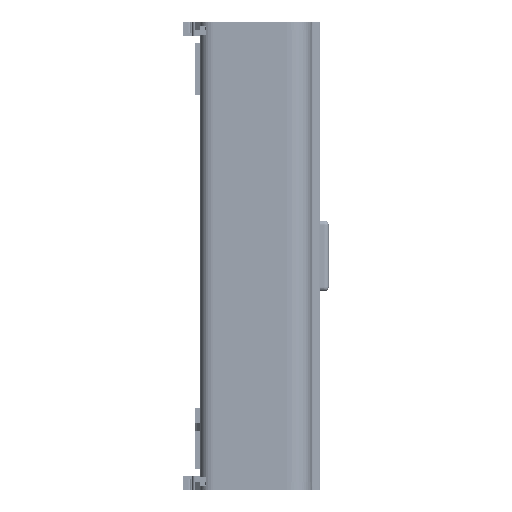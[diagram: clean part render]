
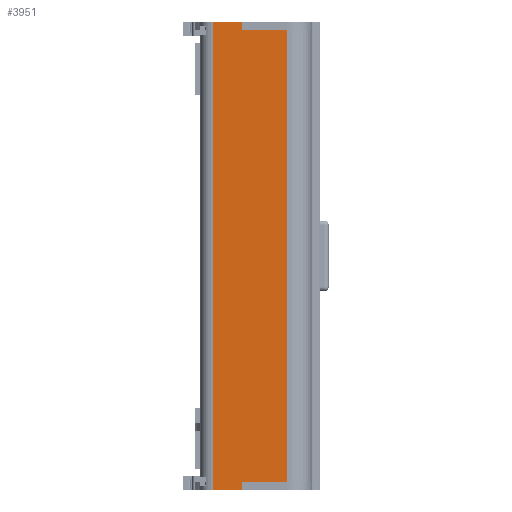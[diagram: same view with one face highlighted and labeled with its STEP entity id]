
A CAD part, front view. The second image highlights one B-rep face of the part: STEP entity #3951.
In plain terms, the highlighted planar face has unit normal (0, -1, 0).
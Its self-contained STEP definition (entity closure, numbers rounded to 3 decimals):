
#3951=ADVANCED_FACE('',(#6682),#5348,.T.);
#5348=PLANE('',#33747);
#6682=FACE_OUTER_BOUND('',#8437,.T.);
#8437=EDGE_LOOP('',(#15619,#15620,#15621,#15622,#15623,#15624,#15625,#15626));
#15619=ORIENTED_EDGE('',*,*,#24536,.F.);
#15620=ORIENTED_EDGE('',*,*,#24537,.F.);
#15621=ORIENTED_EDGE('',*,*,#24538,.T.);
#15622=ORIENTED_EDGE('',*,*,#24539,.F.);
#15623=ORIENTED_EDGE('',*,*,#24516,.F.);
#15624=ORIENTED_EDGE('',*,*,#24540,.T.);
#15625=ORIENTED_EDGE('',*,*,#24541,.F.);
#15626=ORIENTED_EDGE('',*,*,#24542,.T.);
#20596=VERTEX_POINT('',#120240);
#20597=VERTEX_POINT('',#120241);
#20616=VERTEX_POINT('',#120282);
#20617=VERTEX_POINT('',#120283);
#20618=VERTEX_POINT('',#120285);
#20619=VERTEX_POINT('',#120287);
#20620=VERTEX_POINT('',#120290);
#20621=VERTEX_POINT('',#120292);
#24516=EDGE_CURVE('',#20596,#20597,#28127,.T.);
#24536=EDGE_CURVE('',#20616,#20617,#28141,.T.);
#24537=EDGE_CURVE('',#20618,#20616,#28142,.T.);
#24538=EDGE_CURVE('',#20618,#20619,#28143,.T.);
#24539=EDGE_CURVE('',#20597,#20619,#28144,.T.);
#24540=EDGE_CURVE('',#20596,#20620,#28145,.T.);
#24541=EDGE_CURVE('',#20621,#20620,#28146,.T.);
#24542=EDGE_CURVE('',#20621,#20617,#28147,.T.);
#28127=LINE('',#120239,#31175);
#28141=LINE('',#120281,#31189);
#28142=LINE('',#120284,#31190);
#28143=LINE('',#120286,#31191);
#28144=LINE('',#120288,#31192);
#28145=LINE('',#120289,#31193);
#28146=LINE('',#120291,#31194);
#28147=LINE('',#120293,#31195);
#31175=VECTOR('',#39432,1.);
#31189=VECTOR('',#39462,1.);
#31190=VECTOR('',#39463,1.);
#31191=VECTOR('',#39464,1.);
#31192=VECTOR('',#39465,1.);
#31193=VECTOR('',#39466,1.);
#31194=VECTOR('',#39467,1.);
#31195=VECTOR('',#39468,1.);
#33747=AXIS2_PLACEMENT_3D('',#120294,#39469,#39470);
#39432=DIRECTION('',(0.,0.,1.));
#39462=DIRECTION('',(0.,0.,-1.));
#39463=DIRECTION('',(1.,0.,0.));
#39464=DIRECTION('',(0.,0.,1.));
#39465=DIRECTION('',(1.,0.,0.));
#39466=DIRECTION('',(1.,0.,0.));
#39467=DIRECTION('',(0.,0.,-1.));
#39468=DIRECTION('',(1.,0.,0.));
#39469=DIRECTION('',(0.,-1.,0.));
#39470=DIRECTION('',(0.,0.,-1.));
#120239=CARTESIAN_POINT('',(-14.817,-42.063,259.211));
#120240=CARTESIAN_POINT('',(-14.817,-42.063,-23.765));
#120241=CARTESIAN_POINT('',(-14.817,-42.063,142.235));
#120281=CARTESIAN_POINT('',(11.683,-42.063,259.211));
#120282=CARTESIAN_POINT('',(11.683,-42.063,139.235));
#120283=CARTESIAN_POINT('',(11.683,-42.063,-20.765));
#120284=CARTESIAN_POINT('',(-32.836,-42.063,139.235));
#120285=CARTESIAN_POINT('',(-4.317,-42.063,139.235));
#120286=CARTESIAN_POINT('',(-4.317,-42.063,143.123));
#120287=CARTESIAN_POINT('',(-4.317,-42.063,142.235));
#120288=CARTESIAN_POINT('',(-32.836,-42.063,142.235));
#120289=CARTESIAN_POINT('',(-32.836,-42.063,-23.765));
#120290=CARTESIAN_POINT('',(-4.317,-42.063,-23.765));
#120291=CARTESIAN_POINT('',(-4.317,-42.063,-24.653));
#120292=CARTESIAN_POINT('',(-4.317,-42.063,-20.765));
#120293=CARTESIAN_POINT('',(-32.836,-42.063,-20.765));
#120294=CARTESIAN_POINT('',(-32.836,-42.063,259.211));
